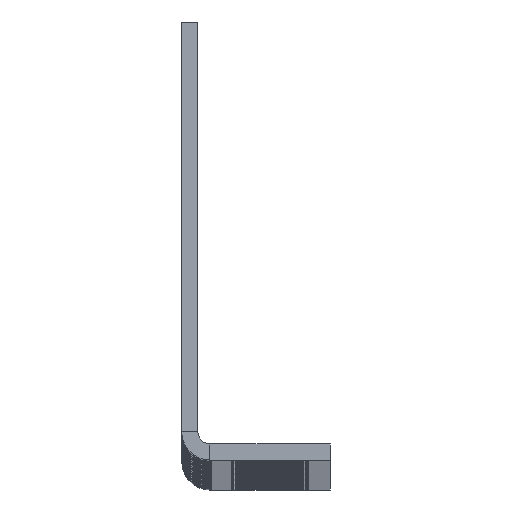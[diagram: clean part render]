
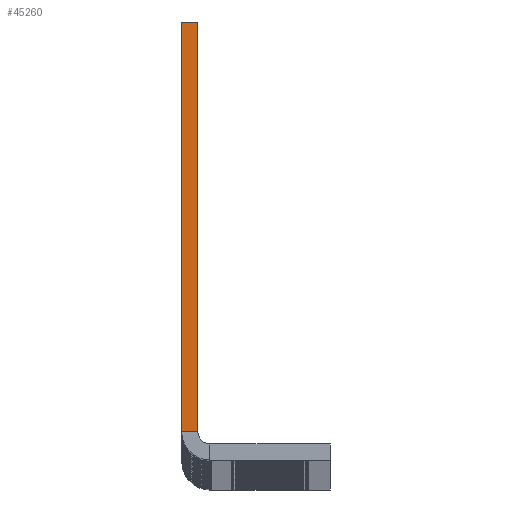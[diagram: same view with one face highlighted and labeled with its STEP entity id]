
A CAD part, top view. The second image highlights one B-rep face of the part: STEP entity #45260.
In plain terms, the highlighted planar face has unit normal (0, 0, 1).
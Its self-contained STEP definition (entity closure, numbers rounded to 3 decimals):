
#1389 = EDGE_LOOP ( 'NONE', ( #75589, #75592, #75595, #75596 ) ) ;
#3699 = CARTESIAN_POINT ( 'NONE',  ( 3.5, 2., 1066.5 ) ) ;
#3700 = PLANE ( 'NONE',  #69124 ) ;
#3704 = DIRECTION ( 'NONE',  ( 0., 0., 1. ) ) ;
#3705 = DIRECTION ( 'NONE',  ( 1., 0., 0. ) ) ;
#17167 = CARTESIAN_POINT ( 'NONE',  ( 0., 54.5, 1066.5 ) ) ;
#17362 = CARTESIAN_POINT ( 'NONE',  ( 2., 3.5, 1066.5 ) ) ;
#17363 = CARTESIAN_POINT ( 'NONE',  ( 2., 54.5, 1066.5 ) ) ;
#17364 = CARTESIAN_POINT ( 'NONE',  ( 0., 3.5, 1066.5 ) ) ;
#45260 = ADVANCED_FACE ( 'NONE', ( #94538 ), #3700, .T. ) ;
#60710 = VERTEX_POINT ( 'NONE', #17167 ) ;
#61100 = VERTEX_POINT ( 'NONE', #17362 ) ;
#61102 = VERTEX_POINT ( 'NONE', #17363 ) ;
#61104 = VERTEX_POINT ( 'NONE', #17364 ) ;
#69124 = AXIS2_PLACEMENT_3D ( 'NONE', #3699, #3704, #3705 ) ;
#73002 = DIRECTION ( 'NONE',  ( 0., -1., 0. ) ) ;
#73003 = CARTESIAN_POINT ( 'NONE',  ( 2., 0., 1066.5 ) ) ;
#73036 = CARTESIAN_POINT ( 'NONE',  ( 0., 54.5, 1066.5 ) ) ;
#73037 = DIRECTION ( 'NONE',  ( 1., 0., 0. ) ) ;
#73060 = CARTESIAN_POINT ( 'NONE',  ( 0., 3.5, 1066.5 ) ) ;
#73062 = DIRECTION ( 'NONE',  ( 1., 0., 0. ) ) ;
#73067 = CARTESIAN_POINT ( 'NONE',  ( 0., 0., 1066.5 ) ) ;
#73068 = DIRECTION ( 'NONE',  ( 0., -1., 0. ) ) ;
#73689 = LINE ( 'NONE', #73003, #73691 ) ;
#73691 = VECTOR ( 'NONE', #73002, 1000. ) ;
#73710 = LINE ( 'NONE', #73036, #73713 ) ;
#73713 = VECTOR ( 'NONE', #73037, 1000. ) ;
#73732 = LINE ( 'NONE', #73060, #73735 ) ;
#73735 = VECTOR ( 'NONE', #73062, 1000. ) ;
#73738 = LINE ( 'NONE', #73067, #73741 ) ;
#73741 = VECTOR ( 'NONE', #73068, 1000. ) ;
#75589 = ORIENTED_EDGE ( 'NONE', *, *, #87088, .T. ) ;
#75592 = ORIENTED_EDGE ( 'NONE', *, *, #87084, .T. ) ;
#75595 = ORIENTED_EDGE ( 'NONE', *, *, #87060, .F. ) ;
#75596 = ORIENTED_EDGE ( 'NONE', *, *, #87072, .F. ) ;
#87060 = EDGE_CURVE ( 'NONE', #61102, #61100, #73689, .T. ) ;
#87072 = EDGE_CURVE ( 'NONE', #60710, #61102, #73710, .T. ) ;
#87084 = EDGE_CURVE ( 'NONE', #61104, #61100, #73732, .T. ) ;
#87088 = EDGE_CURVE ( 'NONE', #60710, #61104, #73738, .T. ) ;
#94538 = FACE_OUTER_BOUND ( 'NONE', #1389, .T. ) ;
